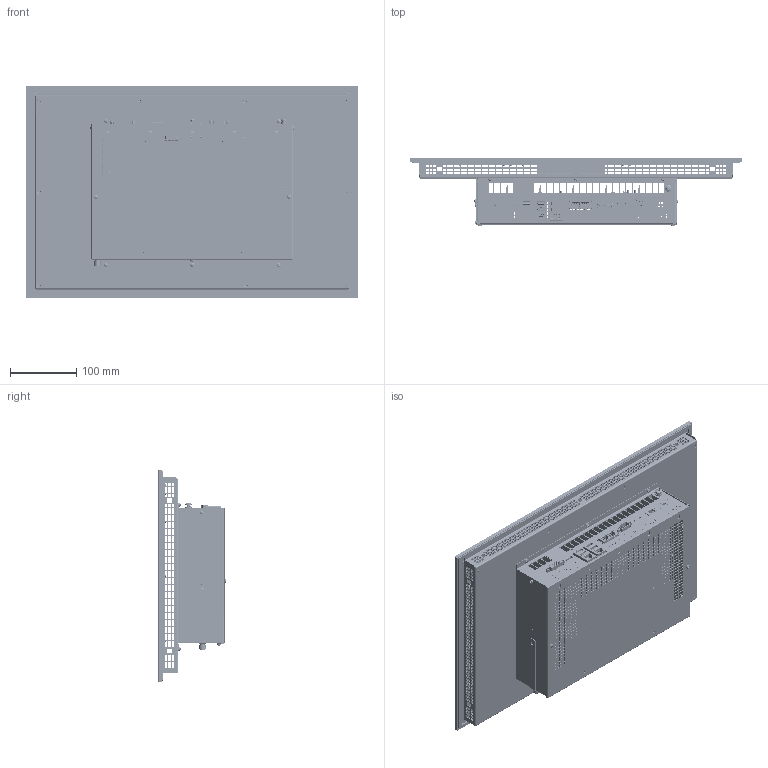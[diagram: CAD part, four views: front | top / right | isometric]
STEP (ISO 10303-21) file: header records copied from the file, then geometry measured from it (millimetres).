
FILE_DESCRIPTION (( 'STEP AP214' ), '1' );
FILE_NAME ('C6P34-Panel_185W_Cap_S0.STEP', '2019-09-20T15:19:04', ( '' ), ( '' ), 'SwSTEP 2.0', 'SolidWorks 2018', '' );
FILE_SCHEMA (( 'AUTOMOTIVE_DESIGN' ));
Length unit declared in the file: millimetre
Products named in the file (173): 21404036; 21502089; perni_filettati.prt; 57902481; 55688003.prt; 65720030; 57936013; 21614000; 21405029; 21509026; 69111028; 21410015; 65720029; piazzuola_de800_di370; 56600330; 51702303; 51702303_Default<A macchina>; 58702102_Default<A macchina>; 21409042; 59702265; 21410046; 57936014; 21410056; 21410052; 56636589.prt; 7397_227_Depopolato; 51524089; 52536147; 59302439_Default<A macchina>; 65720078; 52912002; 7397_227; 62920002; 23330039; 56600330(2)^56600330; 52536147_Default<A macchina>; 62920009; C6P34-Panel_185W_Cap_S0; 66320001; 66320015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
Assembly tree (130 placements, depth 6):
  21404036
  perni_filettati.prt
  57902481
  65720030
  21614000
Bounding box: 503 x 103.49 x 320.5 mm (x, y, z)
Volume: 1400092.8 mm3; surface area: 1944137 mm2
Topology: 223 solids, 243 shells, 24471 faces, 68530 edges, 44919 vertices
Faces by surface type: plane 19351, cylinder 3766, bspline 707, cone 553, torus 74, sphere 20
Full cylindrical faces by diameter (mm): 0.3 x9, 0.434 x1, 0.6 x30, 0.65 x6, 0.7 x165, 0.8 x36, 0.85 x66, 0.9 x175, 0.95 x11, 1 x119, 1.1 x3, 1.2 x10, 1.35 x4, 1.4 x8, 1.5 x6, 1.6 x7, 1.7 x4, 1.8 x3, 1.9 x4, 1.95 x4, 2.05 x1, 2.3 x18, 2.4 x9, 2.5 x38, 2.6 x5, 2.8 x3, 2.874 x1, 3 x64, 3.15 x2, 3.2 x4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
Entity records: 810862 total; most frequent: CARTESIAN_POINT 169033, ORIENTED_EDGE 132728, DIRECTION 116986, EDGE_CURVE 66754, VECTOR 56402, LINE 56402, VERTEX_POINT 44554, EDGE_LOOP 31067
